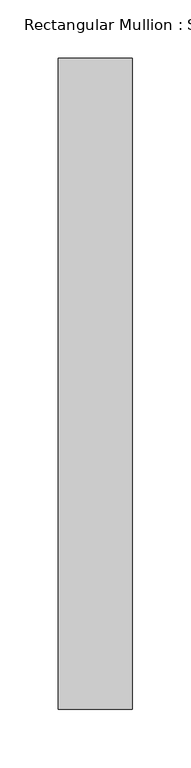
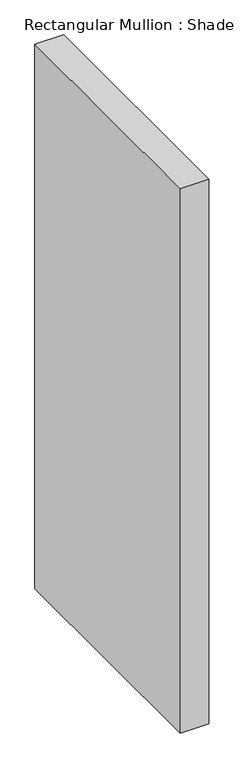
"""IFC4 building model written with IfcOpenShell, lengths in millimetres: member geometry, Rectangular Mullion : Shade."""

from ifc_helpers import new_model, si_unit, frame, origin, place, context, project, spatial, polyline, outline, extrude, source, transform, mapped, element, save


def rectangular_mullion_shade_037705a8(model_context):
    return source(origin(), model_context, "Body", "SweptSolid", [
        extrude(outline(polyline([(0.0, 482.6), (0.0, -76.2), (-63.5, -76.2), (-63.5, 482.6), (0.0, 482.6)])), frame((0.0, 0.0, -1276.35), z_axis=(0.0, 0.0, 1.0), x_axis=(1.0, 0.0, 0.0)), (0.0, 0.0, 1.0), 1276.35),
    ])


if __name__ == "__main__":
    model = new_model("IFC4")
    model_context = context("Model", 3, world=origin())
    ifc_project = project(units=[si_unit("LENGTHUNIT", "METRE", prefix="MILLI")], contexts=[model_context])
    site = spatial("IfcSite", under=ifc_project)
    building = spatial("IfcBuilding", under=site)
    placement = place(None, origin())
    rectangular_mullion_shade_shape = rectangular_mullion_shade_037705a8(model_context)
    element("IfcMember", 1, ObjectType="Rectangular Mullion : Shade", at=placement, inside=building, context=model_context, shape_type="MappedRepresentation", body=[
        mapped(rectangular_mullion_shade_shape, transform((0.0, 0.0, 0.0), x_axis=(1.0, 0.0, 0.0), y_axis=(0.0, 1.0, 0.0), z_axis=(0.0, 0.0, 1.0))),
    ])
    save(model, "model.ifc")
